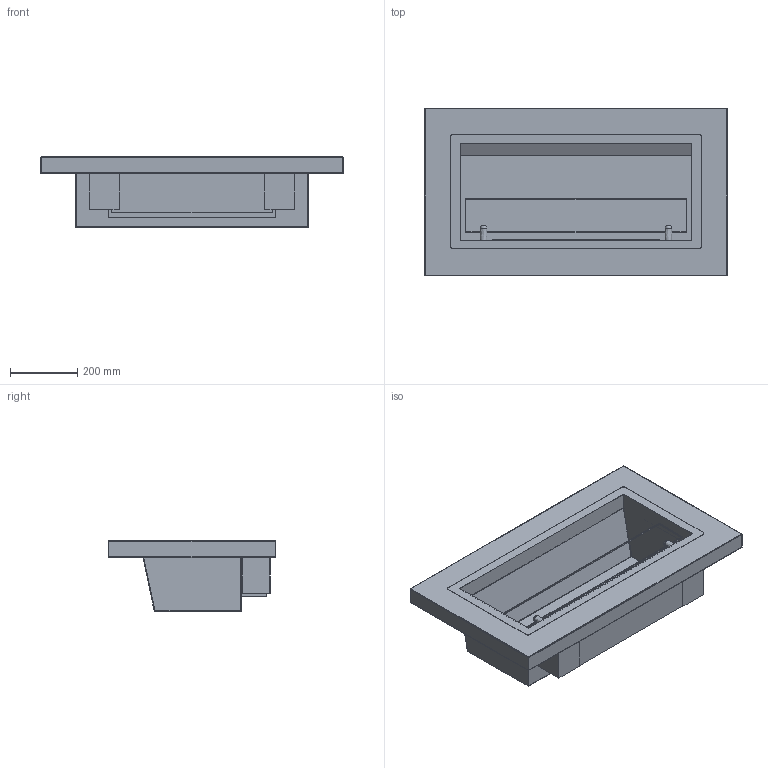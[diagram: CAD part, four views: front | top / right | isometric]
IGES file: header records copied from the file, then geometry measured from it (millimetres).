
Global section: file name: paris90; native system: Autodesk Inventor 2016; preprocessor: unknown; author: desarrollos; date: 20261001.140502; units: millimetre
Bounding box: 900 x 500 x 212 mm (x, y, z)
Volume: 6415787.6 mm3; surface area: 2549871 mm2
Topology: 1 solids, 2 shells, 190 faces, 462 edges, 282 vertices
Faces by surface type: bspline 190
